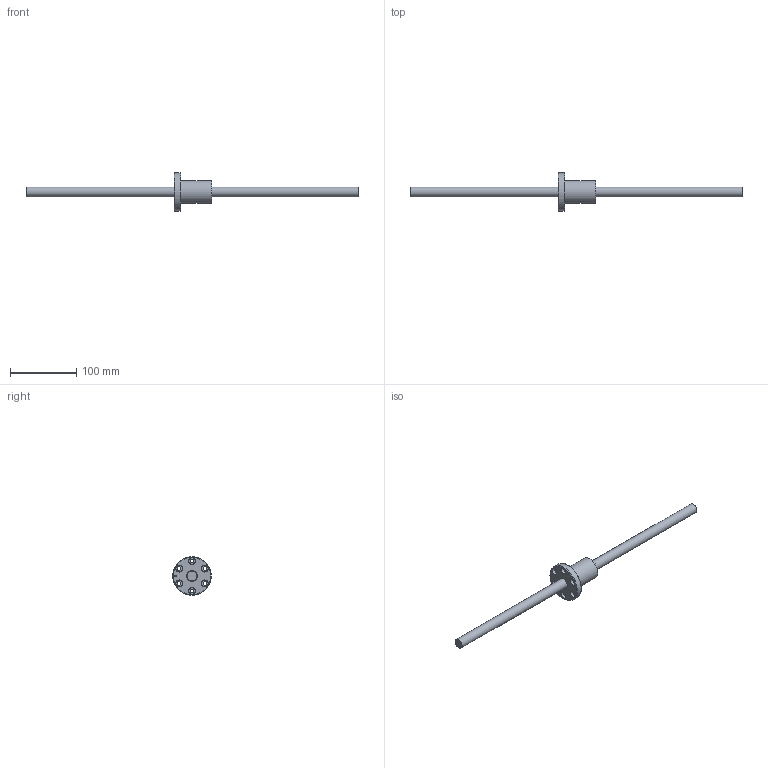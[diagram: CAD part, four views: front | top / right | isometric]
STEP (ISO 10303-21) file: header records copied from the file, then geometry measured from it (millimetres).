
FILE_DESCRIPTION (( 'STEP AP203' ), '1' );
FILE_NAME ('SFV01510N-2.7.step', '2024-05-20T03:37:06', ( '' ), ( '' ), 'SwSTEP 2.0', 'SolidWorks 2022', '' );
FILE_SCHEMA (( 'CONFIG_CONTROL_DESIGN' ));
Length unit declared in the file: millimetre
Products named in the file (1): SFV01510N-2.7
Bounding box: 500 x 58 x 58 mm (x, y, z)
Volume: 141420 mm3; surface area: 39792.8 mm2
Topology: 2 solids, 2 shells, 57 faces, 128 edges, 82 vertices
Faces by surface type: cylinder 24, cone 13, plane 12, bspline 5, torus 3
Full cylindrical faces by diameter (mm): 4 x1, 5 x6, 5.5 x6, 9.5 x6, 15 x1, 16.7 x1, 34 x1, 58 x1
Entity records: 2945 total; most frequent: CARTESIAN_POINT 1946, DIRECTION 196, ORIENTED_EDGE 126, EDGE_LOOP 108, AXIS2_PLACEMENT_3D 96, FACE_OUTER_BOUND 72, EDGE_CURVE 63, VERTEX_POINT 59
